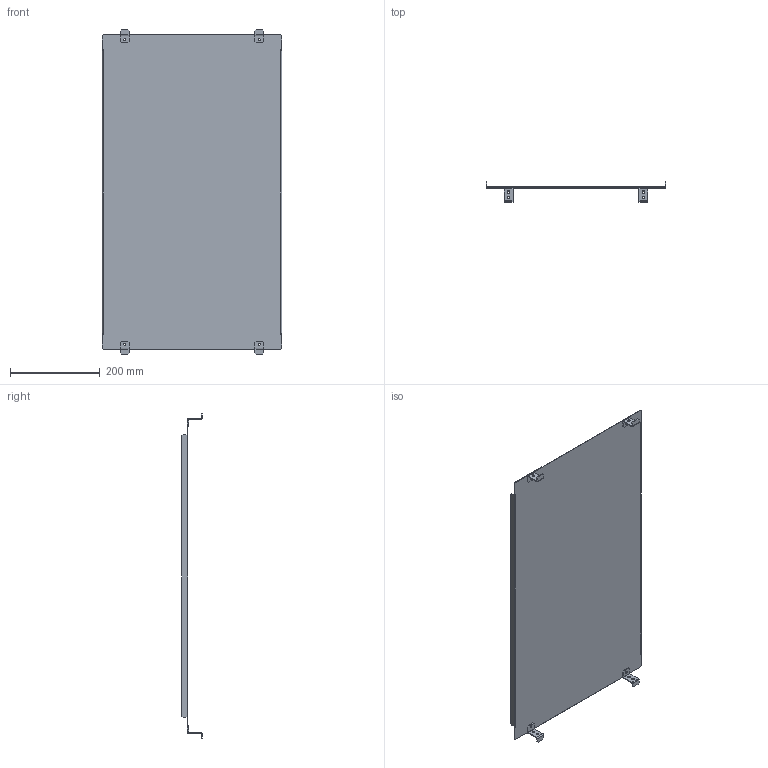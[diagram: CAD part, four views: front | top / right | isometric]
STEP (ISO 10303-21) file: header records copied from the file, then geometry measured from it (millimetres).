
FILE_DESCRIPTION(('CAx-IF Rec.Pracs.---Model Styling and Organization---1.2---2011-12-15','CAx-IF Rec.Pracs.---Geometric and Assembly Validation Properties---4.1---2014-06-16','CAx-IF Rec.Pracs.---PMI Polyline Presentation---2.0---2013-05-24'),'2;1');
FILE_NAME('R5SBPW84.stp','2021-05-06T03:04:33+03:00',(''),(''),'STEP Interface 4.4 by CT CoreTechnologie','3D_Evolution4.4 by CT CoreTechnologie','');
FILE_SCHEMA(('AUTOMOTIVE_DESIGN { 1 0 10303 214 1 1 1 1 }'));
Length unit declared in the file: millimetre
Products named in the file (3): R5SBPW84; RB.0521.00.00.0_-00; RB.0532.00.00.0_-01
Assembly tree (5 placements, depth 2):
  R5SBPW84
    RB.0521.00.00.0_-00  x4
    RB.0532.00.00.0_-01
Bounding box: 399 x 45 x 722 mm (x, y, z)
Surface area: 599621.4 mm2 (no closed solid volume)
Topology: 0 solids, 5 shells, 162 faces, 440 edges, 288 vertices
Faces by surface type: plane 106, cylinder 56
Entity records: 2906 total; most frequent: CARTESIAN_POINT 482, ORIENTED_EDGE 472, DIRECTION 468, EDGE_CURVE 236, VECTOR 184, LINE 184, VERTEX_POINT 156, AXIS2_PLACEMENT_3D 142
